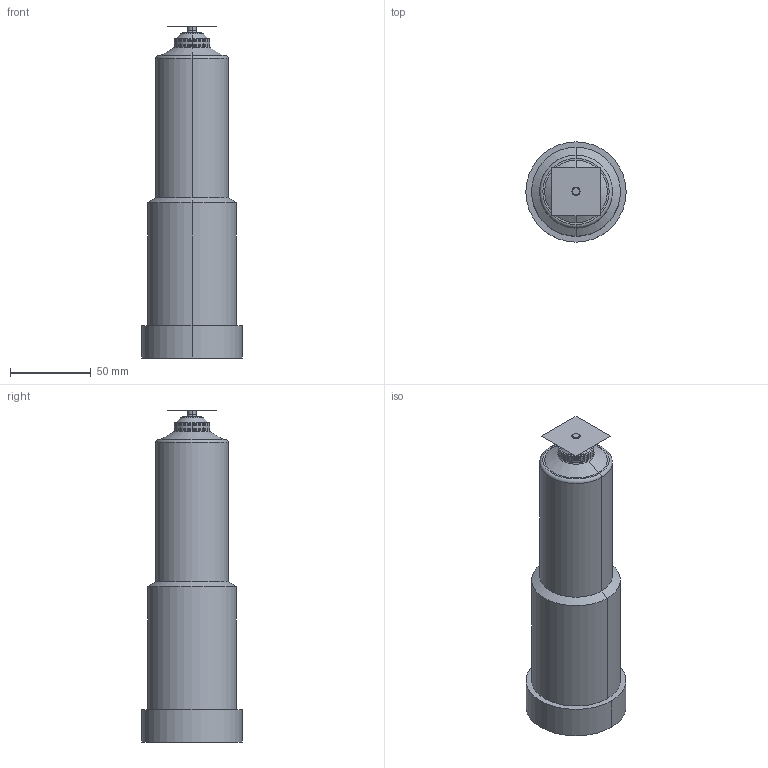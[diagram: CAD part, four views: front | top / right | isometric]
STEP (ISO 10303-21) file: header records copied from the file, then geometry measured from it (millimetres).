
FILE_DESCRIPTION (( 'STEP AP214' ), '1' );
FILE_NAME ('16EX22-03-205-VSW.STEP', '2022-03-09T13:44:40', ( '' ), ( '' ), 'SwSTEP 2.0', 'SolidWorks 2018', '' );
FILE_SCHEMA (( 'AUTOMOTIVE_DESIGN' ));
Length unit declared in the file: millimetre
Products named in the file (3): cutout_16EX22-03-205-VSW; 16EX22-03-205-VSW; nozzle_16EX22-03-205-VSW
Assembly tree (2 placements, depth 2):
  16EX22-03-205-VSW
    nozzle_16EX22-03-205-VSW
    cutout_16EX22-03-205-VSW
Bounding box: 62 x 62 x 205.3 mm (x, y, z)
Volume: 393331.6 mm3; surface area: 115253.9 mm2
Topology: 1 solids, 4 shells, 443 faces, 1170 edges, 710 vertices
Faces by surface type: cylinder 160, plane 156, torus 73, cone 50, sphere 2, bspline 2
Entity records: 14818 total; most frequent: CARTESIAN_POINT 3437, DIRECTION 2535, ORIENTED_EDGE 2328, EDGE_CURVE 1166, AXIS2_PLACEMENT_3D 1010, VERTEX_POINT 708, CIRCLE 563, VECTOR 515
